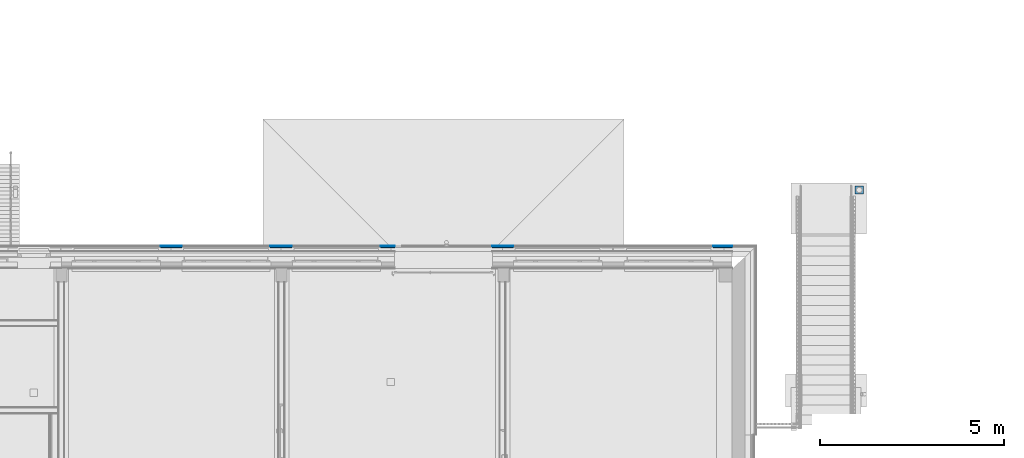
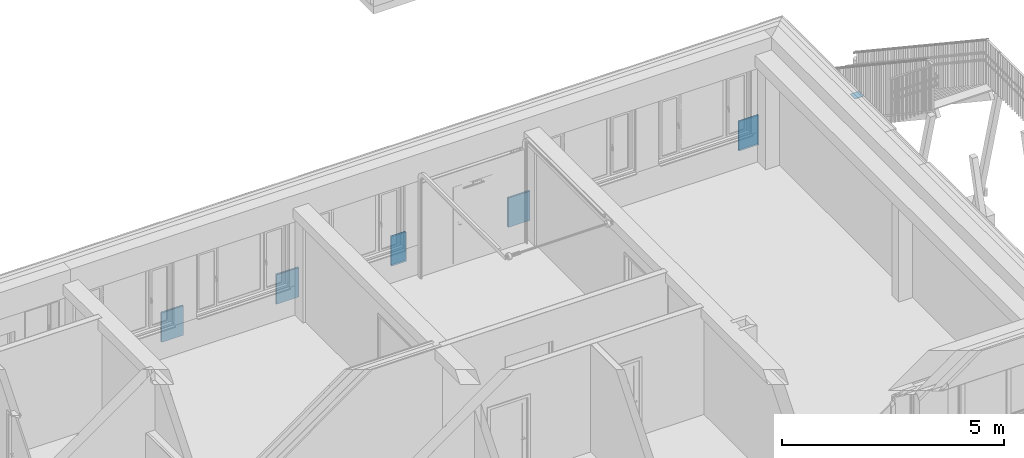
# One storey, part 67 of 418: 10 building element parts, 1 discrete accessory, 5 elements without a shape of their own.
"""IFC2X3 building model written with IfcOpenShell, lengths in millimetres."""

from ifc_helpers import new_model, entity, si_unit, converted_unit, derived_unit, money_unit, point, direction, frame, frame_2d, origin_with_axes, place, context, subcontext, project, spatial, polyline, circle_curve, parameter, trimmed, segment, composite_curve, outline, extrude, material, type_object, element, aggregate, save


model = new_model("IFC2X3")

# Units and contexts
model_context = context("Model", 3, precision=0.01, world=origin_with_axes(), true_north=direction((0.0, 1.0)))
body_context = subcontext(model_context, "Body", "Model", "MODEL_VIEW")
ifc_project = project(units=[si_unit("LENGTHUNIT", "METRE", prefix="MILLI"), si_unit("AREAUNIT", "SQUARE_METRE"), si_unit("VOLUMEUNIT", "CUBIC_METRE"), converted_unit("PLANEANGLEUNIT", "DEGREE", entity("IfcPlaneAngleMeasure", 0.0174532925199), si_unit("PLANEANGLEUNIT", "RADIAN"), dimensions=[0, 0, 0, 0, 0, 0, 0]), si_unit("SOLIDANGLEUNIT", "STERADIAN"), money_unit("EUR"), converted_unit("TIMEUNIT", "Year", entity("IfcTimeMeasure", 31556926.0), si_unit("TIMEUNIT", "SECOND"), dimensions=[0, 0, 1, 0, 0, 0, 0]), si_unit("MASSUNIT", "GRAM", prefix="KILO"), si_unit("THERMODYNAMICTEMPERATUREUNIT", "DEGREE_CELSIUS"), si_unit("LUMINOUSINTENSITYUNIT", "LUMEN"), si_unit("ENERGYUNIT", "JOULE", prefix="MEGA"), derived_unit("THERMALCONDUCTANCEUNIT", [(si_unit("POWERUNIT", "WATT"), 1), (si_unit("LENGTHUNIT", "METRE"), -1), (si_unit("THERMODYNAMICTEMPERATUREUNIT", "KELVIN"), -1)]), derived_unit("SPECIFICHEATCAPACITYUNIT", [(si_unit("ENERGYUNIT", "JOULE"), 1), (si_unit("MASSUNIT", "GRAM", prefix="KILO"), -1), (si_unit("THERMODYNAMICTEMPERATUREUNIT", "KELVIN"), -1)]), derived_unit("MASSDENSITYUNIT", [(si_unit("MASSUNIT", "GRAM", prefix="KILO"), 1), (si_unit("VOLUMEUNIT", "CUBIC_METRE"), -1)])], contexts=[model_context])

# Site, building, storey
site_placement = place(None, origin_with_axes())
site = spatial("IfcSite", under=ifc_project, at=site_placement, Name="Paldiski mnt 245/1, Tallinn, Harjumaa", CompositionType="COMPLEX")
building_placement = place(site_placement, origin_with_axes())
building = spatial("IfcBuilding", under=site, at=building_placement, Name="RKAS Hoone üldnimetus (kasutust iseloomustav) -> IFC Project Manager -> SOLIBRI", CompositionType="ELEMENT")
storey_placement = place(building_placement, origin_with_axes())
storey = spatial("IfcBuildingStorey", under=building, at=storey_placement, Name="Esimene korrus", CompositionType="ELEMENT", Elevation=0.0)

# Discrete accessory
ifc_material_1 = material(Name="Teras")
discrete_accessory_type = type_object("IfcDiscreteAccessoryType", Name="Teras 10")
discrete_accessory_placement = place(storey_placement, frame((-13892.6307881, 1924.8933079, -790.0), z_axis=(0.0, 0.0, 1.0), x_axis=(1.0, 0.0, 0.0)))
element("IfcDiscreteAccessory", 1, at=discrete_accessory_placement, inside=storey, type_object=discrete_accessory_type, material=ifc_material_1, Name="Kinnitus", context=body_context, shape_type="SweptSolid", body=[
    extrude(outline(composite_curve([segment(trimmed(circle_curve(frame_2d((10.2257070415, 0.202626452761), x_axis=(-0.999803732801, -0.0198115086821)), 10.2277144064), [point((0.0, 0.0)), parameter(0.0)], [point((9.28934971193, -9.98213554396)), parameter(83.6119694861)], True, "CARTESIAN"), True, "CONTINUOUS"), segment(polyline([(9.28934971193, -9.98213554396), (215.140140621, -9.98213554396)]), True, "CONTINUOUS"), segment(trimmed(circle_curve(frame_2d((215.071144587, 0.034145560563), x_axis=(0.00688822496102, -0.999976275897)), 10.0165187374), [point((215.140140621, -9.98213554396)), parameter(0.0)], [point((225.078910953, -0.384495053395)), parameter(87.2099546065)], True, "CARTESIAN"), True, "CONTINUOUS"), segment(polyline([(225.078910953, -0.384495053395), (225.078910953, 205.633083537)]), True, "CONTINUOUS"), segment(trimmed(circle_curve(frame_2d((215.256837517, 205.271746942), x_axis=(0.999323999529, 0.0367633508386)), 9.82871765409), [point((225.078910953, 205.633083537)), parameter(0.0)], [point((216.128077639, 215.06177408)), parameter(82.8076360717)], True, "CARTESIAN"), True, "CONTINUOUS"), segment(polyline([(216.128077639, 215.06177408), (9.97339890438, 215.06177408)]), True, "CONTINUOUS"), segment(trimmed(circle_curve(frame_2d((10.1146127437, 204.946418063), x_axis=(-0.0139589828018, 0.999902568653)), 10.1163416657), [point((9.97339890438, 215.06177408)), parameter(0.0)], [point((0.0, 205.133441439)), parameter(88.1408812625)], True, "CARTESIAN"), True, "CONTINUOUS"), segment(polyline([(0.0, 205.133441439), (0.0, 0.0)]), True, "CONTINUOUS")], self_intersect=False)), frame((0.0, 0.0, -10.0), z_axis=(0.0, 0.0, 1.0), x_axis=(1.0, 0.0, 0.0)), (0.0, 0.0, 1.0), 10.0),
])

# Covering, building element parts
covering_type = type_object("IfcCoveringType", Name="VS-02_Cembrit_c040 50", PredefinedType="NOTDEFINED")
covering_1_placement = place(storey_placement, frame((-29184.0, 460.000000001, 0.999999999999), z_axis=(0.0, 0.0, 1.0), x_axis=(-1.0, 0.0, 0.0)))
covering_1 = element("IfcCovering", 2, at=covering_1_placement, inside=storey, type_object=covering_type, Name="VS-02", PredefinedType="NOTDEFINED")
ifc_material_2 = material(Name="Cembrit_C040")
building_element_part_1_placement = place(covering_1_placement, origin_with_axes())
building_element_part_1 = element("IfcBuildingElementPart", 3, at=building_element_part_1_placement, material=ifc_material_2, Name="Cembrit_C040", context=body_context, shape_type="SweptSolid", body=[
    extrude(outline(polyline([(0.0, -50.0), (582.0, -50.0), (582.0, -42.0), (0.0, -42.0), (0.0, -50.0)])), origin_with_axes(), (0.0, 0.0, 1.0), 810.0),
])
ifc_material_3 = material(Name="VKR-06_Õhkvahe")
building_element_part_2_placement = place(covering_1_placement, origin_with_axes())
building_element_part_2 = element("IfcBuildingElementPart", 4, at=building_element_part_2_placement, material=ifc_material_3, Name="VKR-06_Õhkvahe", context=body_context, shape_type="SweptSolid", body=[
    extrude(outline(polyline([(0.0, -42.0), (582.0, -42.0), (582.0, 0.0), (0.0, 0.0), (0.0, -42.0)])), origin_with_axes(), (0.0, 0.0, 1.0), 810.0),
])
aggregate(covering_1, [building_element_part_1, building_element_part_2])

covering_2_placement = place(storey_placement, frame((-32174.0, 460.000000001, 0.999999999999), z_axis=(0.0, 0.0, 1.0), x_axis=(-1.0, 0.0, 0.0)))
covering_2 = element("IfcCovering", 5, at=covering_2_placement, inside=storey, type_object=covering_type, Name="VS-02", PredefinedType="NOTDEFINED")
building_element_part_3_placement = place(covering_2_placement, origin_with_axes())
building_element_part_3 = element("IfcBuildingElementPart", 6, at=building_element_part_3_placement, material=ifc_material_2, Name="Cembrit_C040", context=body_context, shape_type="SweptSolid", body=[
    extrude(outline(polyline([(0.0, -50.0), (572.0, -50.0), (572.0, -42.0), (0.0, -42.0), (0.0, -50.0)])), origin_with_axes(), (0.0, 0.0, 1.0), 810.0),
])
building_element_part_4_placement = place(covering_2_placement, origin_with_axes())
building_element_part_4 = element("IfcBuildingElementPart", 7, at=building_element_part_4_placement, material=ifc_material_3, Name="VKR-06_Õhkvahe", context=body_context, shape_type="SweptSolid", body=[
    extrude(outline(polyline([(0.0, -42.0), (572.0, -42.0), (572.0, 0.0), (0.0, 0.0), (0.0, -42.0)])), origin_with_axes(), (0.0, 0.0, 1.0), 810.0),
])
aggregate(covering_2, [building_element_part_3, building_element_part_4])

covering_3_placement = place(storey_placement, frame((-23174.0, 460.0, 0.999999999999), z_axis=(0.0, 0.0, 1.0), x_axis=(-1.0, 0.0, 0.0)))
covering_3 = element("IfcCovering", 8, at=covering_3_placement, inside=storey, type_object=covering_type, Name="VS-02", PredefinedType="NOTDEFINED")
building_element_part_5_placement = place(covering_3_placement, origin_with_axes())
building_element_part_5 = element("IfcBuildingElementPart", 9, at=building_element_part_5_placement, material=ifc_material_2, Name="Cembrit_C040", context=body_context, shape_type="SweptSolid", body=[
    extrude(outline(polyline([(0.0, -50.0), (565.999999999, -50.0), (565.999999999, -42.0), (0.0, -42.0), (0.0, -50.0)])), origin_with_axes(), (0.0, 0.0, 1.0), 810.0),
])
building_element_part_6_placement = place(covering_3_placement, origin_with_axes())
building_element_part_6 = element("IfcBuildingElementPart", 10, at=building_element_part_6_placement, material=ifc_material_3, Name="VKR-06_Õhkvahe", context=body_context, shape_type="SweptSolid", body=[
    extrude(outline(polyline([(0.0, -42.0), (565.999999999, -42.0), (565.999999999, 0.0), (0.0, 0.0), (0.0, -42.0)])), origin_with_axes(), (0.0, 0.0, 1.0), 810.0),
])
aggregate(covering_3, [building_element_part_5, building_element_part_6])

covering_4_placement = place(storey_placement, frame((-26390.0, 460.0, 0.999999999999), z_axis=(0.0, 0.0, 1.0), x_axis=(-1.0, 0.0, 0.0)))
covering_4 = element("IfcCovering", 11, at=covering_4_placement, inside=storey, type_object=covering_type, Name="VS-02", PredefinedType="NOTDEFINED")
building_element_part_7_placement = place(covering_4_placement, origin_with_axes())
building_element_part_7 = element("IfcBuildingElementPart", 12, at=building_element_part_7_placement, material=ifc_material_2, Name="Cembrit_C040", context=body_context, shape_type="SweptSolid", body=[
    extrude(outline(polyline([(0.0, -50.0), (386.000000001, -50.0), (386.000000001, -42.0), (0.0, -42.0), (0.0, -50.0)])), origin_with_axes(), (0.0, 0.0, 1.0), 810.0),
])
building_element_part_8_placement = place(covering_4_placement, origin_with_axes())
building_element_part_8 = element("IfcBuildingElementPart", 13, at=building_element_part_8_placement, material=ifc_material_3, Name="VKR-06_Õhkvahe", context=body_context, shape_type="SweptSolid", body=[
    extrude(outline(polyline([(0.0, -42.0), (386.000000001, -42.0), (386.000000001, 0.0), (0.0, 0.0), (0.0, -42.0)])), origin_with_axes(), (0.0, 0.0, 1.0), 810.0),
])
aggregate(covering_4, [building_element_part_7, building_element_part_8])

covering_5_placement = place(storey_placement, frame((-17230.0, 460.0, 0.999999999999), z_axis=(0.0, 0.0, 1.0), x_axis=(-1.0, 0.0, 0.0)))
covering_5 = element("IfcCovering", 14, at=covering_5_placement, inside=storey, type_object=covering_type, Name="VS-02", PredefinedType="NOTDEFINED")
building_element_part_9_placement = place(covering_5_placement, origin_with_axes())
building_element_part_9 = element("IfcBuildingElementPart", 15, at=building_element_part_9_placement, material=ifc_material_2, Name="Cembrit_C040", context=body_context, shape_type="SweptSolid", body=[
    extrude(outline(polyline([(0.0, -50.0), (516.0, -50.0), (516.0, -42.0), (0.0, -42.0), (0.0, -50.0)])), origin_with_axes(), (0.0, 0.0, 1.0), 810.0),
])
building_element_part_10_placement = place(covering_5_placement, origin_with_axes())
building_element_part_10 = element("IfcBuildingElementPart", 16, at=building_element_part_10_placement, material=ifc_material_3, Name="VKR-06_Õhkvahe", context=body_context, shape_type="SweptSolid", body=[
    extrude(outline(polyline([(0.0, -42.0), (516.0, -42.0), (516.0, 0.0), (0.0, 0.0), (0.0, -42.0)])), origin_with_axes(), (0.0, 0.0, 1.0), 810.0),
])
aggregate(covering_5, [building_element_part_9, building_element_part_10])

save(model, "model.ifc")
